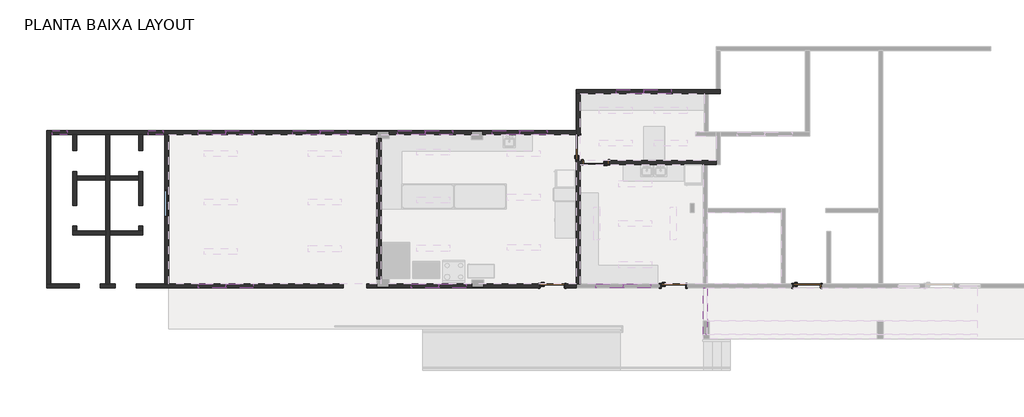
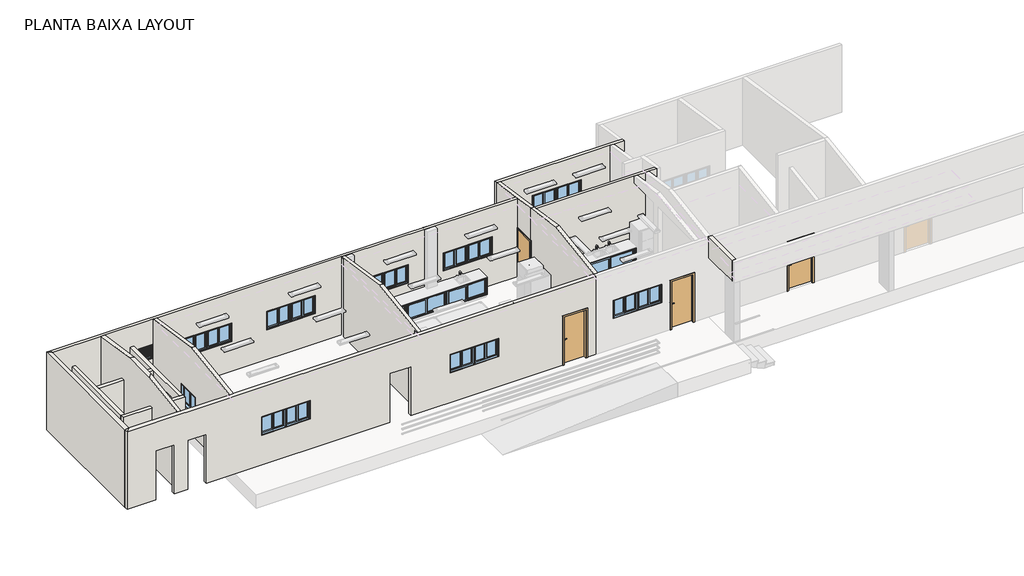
# One storey, part 1 of 6: 29 windows, 24 walls, 5 doors.
"""IFC4 building model written with IfcOpenShell, lengths in millimetres."""

from ifc_helpers import new_model, si_unit, frame, origin, origin_with_axes, place, context, project, spatial, polyline, outline, extrude, faceted_brep, transform, mapped, element, save
from components import door_11dd9e2f, door_7d303a18, window_d0bb16d3, window_8d8c32c6, window_31080834, window_e4890519, window_c5818056, window_2c990719, window_158f51de, window_a2c0ad5d

model = new_model("IFC4")

# Units and contexts
model_context = context("Model", 3, world=origin())
ifc_project = project(units=[si_unit("LENGTHUNIT", "METRE", prefix="MILLI")], contexts=[model_context])

# Site, building, storey
site = spatial("IfcSite", under=ifc_project)
building = spatial("IfcBuilding", under=site)
storey = spatial("IfcBuildingStorey", under=building, Name="PLANTA BAIXA LAYOUT", Elevation=0.0)

# Doors
placement = place(None, origin())
door_shape = door_11dd9e2f(model_context)
element("IfcDoor", 1, ObjectType="Porta acessivel 90cm-FLA : 100x210 (acessível s/ barra)", at=placement, inside=storey, context=model_context, shape_type="MappedRepresentation", body=[
    mapped(door_shape, transform((5020.1165906, -8042.0637549, 0.0), x_axis=(1.0, 0.0, 0.0), y_axis=(0.0, 1.0, 0.0), z_axis=(0.0, 0.0, 1.0))),
])
door_2_shape = door_7d303a18(model_context)
element("IfcDoor", 2, ObjectType="Porta acessivel 90cm-FLA : 90x210 (acessível s/ barra)", at=placement, inside=storey, context=model_context, shape_type="MappedRepresentation", body=[
    mapped(door_2_shape, transform((160.1165906, -8042.0637549, 0.0), x_axis=(1.0, 0.0, 0.0), y_axis=(0.0, 1.0, 0.0), z_axis=(0.0, 0.0, 1.0))),
])
element("IfcDoor", 3, ObjectType="Porta acessivel 90cm-FLA : 90x210 (acessível s/ barra)", at=placement, inside=storey, context=model_context, shape_type="MappedRepresentation", body=[
    mapped(door_2_shape, transform((-2679.8834094, -3542.0637549, 0.0), x_axis=(-1.0, 0.0, 0.0), y_axis=(0.0, -1.0, 0.0), z_axis=(0.0, 0.0, 1.0))),
])
element("IfcDoor", 4, ObjectType="Porta acessivel 90cm-FLA : 90x210 (acessível s/ barra)", at=placement, inside=storey, context=model_context, shape_type="MappedRepresentation", body=[
    mapped(door_2_shape, transform((-3317.3834094, -2994.5637549, 0.0), x_axis=(0.0, 1.0, 0.0), y_axis=(-1.0, 0.0, 0.0), z_axis=(0.0, 0.0, 1.0))),
])
element("IfcDoor", 5, ObjectType="Porta acessivel 90cm-FLA : 90x210 (acessível s/ barra)", at=placement, inside=storey, context=model_context, shape_type="MappedRepresentation", body=[
    mapped(door_2_shape, transform((-4254.8834094, -8042.0637549, 0.0), x_axis=(1.0, 0.0, 0.0), y_axis=(0.0, 1.0, 0.0), z_axis=(0.0, 0.0, 1.0))),
])

# Walls
element("IfcWall", 6, ObjectType="12cm Int. Pintura", at=placement, inside=storey, context=model_context, shape_type="SweptSolid", body=[
    extrude(outline(polyline([(-5112.3834094, -3077.0637549), (-5112.3834094, -2537.0637549), (-4992.3834094, -2537.0637549), (-4992.3834094, -3077.0637549), (-5112.3834094, -3077.0637549)])), frame((0.0, 0.0, 150.0), z_axis=(0.0, 0.0, 1.0), x_axis=(1.0, 0.0, 0.0)), (0.0, 0.0, 1.0), 730.0),
])
element("IfcWall", 7, ObjectType="12cm Int. Pintura", at=placement, inside=storey, context=model_context, shape_type="SweptSolid", body=[
    extrude(outline(polyline([(-9922.3834094, -5237.0637549), (-10492.3834094, -5237.0637549), (-10492.3834094, -5117.0637549), (-9922.3834094, -5117.0637549), (-9922.3834094, -5237.0637549)])), origin_with_axes(), (0.0, 0.0, 1.0), 880.0),
])
element("IfcWall", 8, ObjectType="12cm Int. Pintura", at=placement, inside=storey, context=model_context, shape_type="SweptSolid", body=[
    extrude(outline(polyline([(-9802.3834094, -3537.0637549), (-10492.3834094, -3537.0637549), (-10492.3834094, -3417.0637549), (-9802.3834094, -3417.0637549), (-9802.3834094, -3537.0637549)])), frame((0.0, 0.0, 150.0), z_axis=(0.0, 0.0, 1.0), x_axis=(1.0, 0.0, 0.0)), (0.0, 0.0, 1.0), 730.0),
])
element("IfcWall", 9, ObjectType="12cm Int. Pintura", at=placement, inside=storey, context=model_context, shape_type="Brep", body=[
    faceted_brep([(-6732.3834094, -2537.0637549, 150.0), (-6732.3834094, -3077.0637549, 150.0), (-6732.3834094, -3077.0637549, 880.0), (-6732.3834094, -2537.0637549, 880.0), (-6612.3834094, -2537.0637549, 150.0), (-6612.3834094, -2537.0637549, 880.0), (-6612.3834094, -3077.0637549, 880.0), (-6612.3834094, -3077.0637549, 150.0), (-6652.3834094, -3077.0637549, 150.0), (-6652.3834094, -3077.0637549, 880.0)], [[[0, 1, 2, 3]], [[4, 5, 6, 7]], [[1, 0, 4, 7, 8]], [[3, 2, 9, 6, 5]], [[0, 3, 5, 4]], [[2, 1, 8, 7, 6, 9]]]),
])
element("IfcWall", 10, ObjectType="12cm Int. Pintura", at=placement, inside=storey, context=model_context, shape_type="SweptSolid", body=[
    extrude(outline(polyline([(-8372.3834094, -3077.0637549), (-8372.3834094, -2537.0637549), (-8252.3834094, -2537.0637549), (-8252.3834094, -3077.0637549), (-8372.3834094, -3077.0637549)])), frame((0.0, 0.0, 150.0), z_axis=(0.0, 0.0, 1.0), x_axis=(1.0, 0.0, 0.0)), (0.0, 0.0, 1.0), 730.0),
])
element("IfcWall", 11, ObjectType="15cm- Reboco (ambos)", at=placement, inside=storey, context=model_context, shape_type="Brep", body=[
    faceted_brep([(-3242.3834094, -7967.0637549, -25.8188108), (-3242.3834094, -3467.0637549, -25.8188108), (-3242.3834094, -3467.0637549, 0.0), (-3242.3834094, -3472.0637549, 0.0), (-3242.3834094, -3472.0637549, 2120.0), (-3242.3834094, -3467.0637549, 2120.0), (-3242.3834094, -3467.0637549, 3539.5), (-3242.3834094, -3617.0637549, 3562.0), (-3242.3834094, -5252.0637549, 3807.25), (-3242.3834094, -7967.0637549, 3400.0), (-3392.3834094, -3467.0637549, -25.8188108), (-3392.3834094, -7967.0637549, -25.8188108), (-3392.3834094, -7967.0637549, 0.0), (-3392.3834094, -7967.0637549, 3400.0), (-3392.3834094, -5252.0637549, 3807.25), (-3392.3834094, -3467.0637549, 3539.5), (-3392.3834094, -3467.0637549, 2120.0), (-3392.3834094, -3472.0637549, 2120.0), (-3392.3834094, -3472.0637549, 0.0), (-3392.3834094, -3467.0637549, 0.0)], [[[0, 1, 2, 3, 4, 5, 6, 7, 8, 9]], [[10, 11, 12, 13, 14, 15, 16, 17, 18, 19]], [[1, 0, 11, 10]], [[0, 9, 13, 12, 11]], [[1, 10, 19, 2]], [[15, 6, 5, 16]], [[13, 9, 8, 14]], [[6, 15, 14, 8, 7]], [[18, 3, 2, 19]], [[3, 18, 17, 4]], [[4, 17, 16, 5]]]),
])
element("IfcWall", 12, ObjectType="15cm- Reboco (ambos)", at=placement, inside=storey, context=model_context, shape_type="Brep", body=[
    faceted_brep([(-3242.3834094, -3617.0637549, 3562.0), (-3242.3834094, -3617.0637549, 0.0), (-3142.3834094, -3617.0637549, 0.0), (-3142.3834094, -3617.0637549, 2120.0), (-2202.3834094, -3617.0637549, 2120.0), (-2202.3834094, -3617.0637549, 0.0), (1232.6165906, -3617.0637549, 0.0), (1382.6165906, -3617.0637549, 0.0), (1707.6165906, -3617.0637549, 0.0), (1707.6165906, -3617.0637549, 3562.0), (1382.6165906, -3617.0637549, 3562.0), (1232.6165906, -3617.0637549, 3562.0), (912.6165906, -3617.0637549, 3562.0), (762.6165906, -3617.0637549, 3562.0), (-3242.3834094, -3467.0637549, 0.0), (-3242.3834094, -3467.0637549, 2120.0), (-3242.3834094, -3467.0637549, 3539.5), (1707.6165906, -3467.0637549, 3539.5), (1707.6165906, -3467.0637549, 0.0), (-2202.3834094, -3467.0637549, 0.0), (-2202.3834094, -3467.0637549, 2120.0), (-3142.3834094, -3467.0637549, 2120.0), (-3142.3834094, -3467.0637549, 0.0)], [[[0, 1, 2, 3, 4, 5, 6, 7, 8, 9, 10, 11, 12, 13]], [[14, 15, 16, 17, 18, 19, 20, 21, 22]], [[1, 14, 22, 2]], [[18, 8, 7, 6, 5, 19]], [[1, 0, 16, 15, 14]], [[21, 3, 2, 22]], [[9, 8, 18, 17]], [[0, 13, 12, 11, 10, 9, 17, 16]], [[4, 20, 19, 5]], [[3, 21, 20, 4]]]),
])
element("IfcWall", 13, ObjectType="15cm- Reboco (ambos)", at=placement, inside=storey, context=model_context, shape_type="Brep", body=[
    faceted_brep([(1857.6165906, -892.0637549, 0.0), (1707.6165906, -892.0637549, 0.0), (-3392.3834094, -892.0637549, 0.0), (-3392.3834094, -892.0637549, 3153.25), (1707.6165906, -892.0637549, 3153.25), (1857.6165906, -892.0637549, 3153.25), (77.6165906, -892.0637549, 2100.0), (-1922.3834094, -892.0637549, 2100.0), (-1922.3834094, -892.0637549, 1300.0), (77.6165906, -892.0637549, 1300.0), (-3392.3834094, -1042.0637549, 0.0), (-3242.3834094, -1042.0637549, 0.0), (1277.6165906, -1042.0637549, 0.0), (1427.6165906, -1042.0637549, 0.0), (1857.6165906, -1042.0637549, 0.0), (1857.6165906, -1042.0637549, 3175.75), (1427.6165906, -1042.0637549, 3175.75), (1277.6165906, -1042.0637549, 3175.75), (-3242.3834094, -1042.0637549, 3175.75), (-3392.3834094, -1042.0637549, 3175.75), (77.6165906, -1042.0637549, 1300.0), (-1922.3834094, -1042.0637549, 1300.0), (-1922.3834094, -1042.0637549, 2100.0), (77.6165906, -1042.0637549, 2100.0)], [[[0, 1, 2, 3, 4, 5], [6, 7, 8, 9]], [[10, 11, 12, 13, 14, 15, 16, 17, 18, 19], [20, 21, 22, 23]], [[2, 1, 0, 14, 13, 12, 11, 10]], [[3, 2, 10, 19]], [[9, 20, 23, 6]], [[8, 7, 22, 21]], [[6, 23, 22, 7]], [[8, 21, 20, 9]], [[0, 5, 15, 14]], [[5, 4, 3, 19, 18, 17, 16, 15]]]),
])
element("IfcWall", 14, ObjectType="15cm- Reboco (ambos)", at=placement, inside=storey, context=model_context, shape_type="Brep", body=[
    faceted_brep([(-3392.3834094, -1042.0637549, 3175.75), (-3392.3834094, -1042.0637549, 0.0), (-3392.3834094, -2387.0637549, 0.0), (-3392.3834094, -2532.0637549, 0.0), (-3392.3834094, -2532.0637549, 2120.0), (-3392.3834094, -3467.0637549, 2120.0), (-3392.3834094, -3467.0637549, 3539.5), (-3392.3834094, -2537.0637549, 3400.0), (-3392.3834094, -2387.0637549, 3377.5), (-3242.3834094, -1042.0637549, 0.0), (-3242.3834094, -1042.0637549, 3175.75), (-3242.3834094, -3467.0637549, 3539.5), (-3242.3834094, -3467.0637549, 2120.0), (-3242.3834094, -2532.0637549, 2120.0), (-3242.3834094, -2532.0637549, 0.0)], [[[0, 1, 2, 3, 4, 5, 6, 7, 8]], [[9, 10, 11, 12, 13, 14]], [[1, 9, 14, 3, 2]], [[1, 0, 10, 9]], [[11, 6, 5, 12]], [[13, 4, 3, 14]], [[0, 8, 7, 6, 11, 10]], [[4, 13, 12, 5]]]),
])
element("IfcWall", 15, ObjectType="15cm- Reboco (ambos)", at=placement, inside=storey, context=model_context, shape_type="Brep", body=[
    faceted_brep([(-3392.3834094, -2387.0637549, 0.0), (-22522.3834094, -2387.0637549, 0.0), (-22522.3834094, -2387.0637549, 3377.5), (-3392.3834094, -2387.0637549, 3377.5), (-4442.3834094, -2387.0637549, 1300.0), (-4442.3834094, -2387.0637549, 2100.0), (-6442.3834094, -2387.0637549, 2100.0), (-6442.3834094, -2387.0637549, 1300.0), (-7882.3834094, -2387.0637549, 1300.0), (-7882.3834094, -2387.0637549, 2100.0), (-9882.3834094, -2387.0637549, 2100.0), (-9882.3834094, -2387.0637549, 1300.0), (-15152.3834094, -2387.0637549, 1300.0), (-15152.3834094, -2387.0637549, 2100.0), (-17152.3834094, -2387.0637549, 2100.0), (-17152.3834094, -2387.0637549, 1300.0), (-21922.3834094, -2387.0637549, 1700.0), (-21922.3834094, -2387.0637549, 2300.0), (-22472.3834094, -2387.0637549, 2300.0), (-22472.3834094, -2387.0637549, 1700.0), (-18422.3834094, -2387.0637549, 1700.0), (-18422.3834094, -2387.0637549, 2300.0), (-18972.3834094, -2387.0637549, 2300.0), (-18972.3834094, -2387.0637549, 1700.0), (-13712.3834094, -2387.0637549, 2100.0), (-13712.3834094, -2387.0637549, 1300.0), (-11712.3834094, -2387.0637549, 1300.0), (-11712.3834094, -2387.0637549, 2100.0), (-3392.3834094, -2537.0637549, 0.0), (-3392.3834094, -2537.0637549, 3400.0), (-10492.3834094, -2537.0637549, 3400.0), (-10642.3834094, -2537.0637549, 3400.0), (-18222.3834094, -2537.0637549, 3400.0), (-18372.3834094, -2537.0637549, 3400.0), (-20372.3834094, -2537.0637549, 3400.0), (-20522.3834094, -2537.0637549, 3400.0), (-22522.3834094, -2537.0637549, 3400.0), (-22522.3834094, -2537.0637549, 0.0), (-21722.3834094, -2537.0637549, 0.0), (-21572.3834094, -2537.0637549, 0.0), (-20522.3834094, -2537.0637549, 0.0), (-20372.3834094, -2537.0637549, 0.0), (-19322.3834094, -2537.0637549, 0.0), (-19172.3834094, -2537.0637549, 0.0), (-18372.3834094, -2537.0637549, 0.0), (-18222.3834094, -2537.0637549, 0.0), (-10642.3834094, -2537.0637549, 0.0), (-10642.3834094, -2537.0637549, 3379.75), (-10492.3834094, -2537.0637549, 3379.75), (-10202.3834094, -2537.0637549, 3379.75), (-10202.3834094, -2537.0637549, 0.0), (-7212.3834094, -2537.0637549, 0.0), (-7212.3834094, -2537.0637549, 3379.75), (-6792.3834094, -2537.0637549, 3379.75), (-6792.3834094, -2537.0637549, 0.0), (-4442.3834094, -2537.0637549, 2100.0), (-4442.3834094, -2537.0637549, 1300.0), (-6442.3834094, -2537.0637549, 1300.0), (-6442.3834094, -2537.0637549, 2100.0), (-7882.3834094, -2537.0637549, 2100.0), (-7882.3834094, -2537.0637549, 1300.0), (-9882.3834094, -2537.0637549, 1300.0), (-9882.3834094, -2537.0637549, 2100.0), (-15152.3834094, -2537.0637549, 2100.0), (-15152.3834094, -2537.0637549, 1300.0), (-17152.3834094, -2537.0637549, 1300.0), (-17152.3834094, -2537.0637549, 2100.0), (-21922.3834094, -2537.0637549, 2300.0), (-21922.3834094, -2537.0637549, 1700.0), (-22472.3834094, -2537.0637549, 1700.0), (-22472.3834094, -2537.0637549, 2300.0), (-18422.3834094, -2537.0637549, 2300.0), (-18422.3834094, -2537.0637549, 1700.0), (-18972.3834094, -2537.0637549, 1700.0), (-18972.3834094, -2537.0637549, 2300.0), (-13712.3834094, -2537.0637549, 1300.0), (-13712.3834094, -2537.0637549, 2100.0), (-11712.3834094, -2537.0637549, 2100.0), (-11712.3834094, -2537.0637549, 1300.0), (-6792.3834094, -2402.0637549, 0.0), (-7212.3834094, -2402.0637549, 0.0), (-10202.3834094, -2402.0637549, 0.0), (-10642.3834094, -2402.0637549, 0.0), (-7212.3834094, -2402.0637549, 3379.75), (-6792.3834094, -2402.0637549, 3379.75), (-10642.3834094, -2402.0637549, 3379.75), (-10202.3834094, -2402.0637549, 3379.75)], [[[0, 1, 2, 3], [4, 5, 6, 7], [8, 9, 10, 11], [12, 13, 14, 15], [16, 17, 18, 19], [20, 21, 22, 23], [24, 25, 26, 27]], [[28, 29, 30, 31, 32, 33, 34, 35, 36, 37, 38, 39, 40, 41, 42, 43, 44, 45, 46, 47, 48, 49, 50, 51, 52, 53, 54], [55, 56, 57, 58], [59, 60, 61, 62], [63, 64, 65, 66], [67, 68, 69, 70], [71, 72, 73, 74], [75, 76, 77, 78]], [[1, 0, 28, 54, 79, 80, 51, 50, 81, 82, 46, 45, 44, 43, 42, 41, 40, 39, 38, 37]], [[0, 3, 29, 28]], [[5, 55, 58, 6]], [[56, 55, 5, 4]], [[56, 4, 7, 57]], [[7, 6, 58, 57]], [[9, 59, 62, 10]], [[60, 59, 9, 8]], [[60, 8, 11, 61]], [[11, 10, 62, 61]], [[2, 1, 37, 36]], [[83, 84, 53, 52]], [[84, 79, 54, 53]], [[84, 83, 80, 79]], [[80, 83, 52, 51]], [[85, 86, 49, 48, 47]], [[86, 81, 50, 49]], [[86, 85, 82, 81]], [[82, 85, 47, 46]], [[66, 14, 13, 63]], [[13, 12, 64, 63]], [[15, 65, 64, 12]], [[68, 67, 17, 16]], [[69, 68, 16, 19]], [[70, 69, 19, 18]], [[67, 70, 18, 17]], [[72, 71, 21, 20]], [[73, 72, 20, 23]], [[74, 73, 23, 22]], [[71, 74, 22, 21]], [[76, 24, 27, 77]], [[25, 24, 76, 75]], [[25, 75, 78, 26]], [[27, 26, 78, 77]], [[15, 14, 66, 65]], [[3, 2, 36, 35, 34, 33, 32, 31, 30, 29]]]),
])
element("IfcWall", 16, ObjectType="15cm- Reboco (ambos)", at=placement, inside=storey, context=model_context, shape_type="Brep", body=[
    faceted_brep([(-10642.3834094, -7967.0637549, 3400.0), (-10642.3834094, -5252.0637549, 3807.25), (-10642.3834094, -2537.0637549, 3400.0), (-10642.3834094, -2537.0637549, 3379.75), (-10642.3834094, -2682.0637549, 3379.75), (-10642.3834094, -2682.0637549, 0.0), (-10642.3834094, -7782.0637549, 0.0), (-10642.3834094, -7782.0637549, 3379.75), (-10642.3834094, -7967.0637549, 3379.75), (-10492.3834094, -2537.0637549, 3400.0), (-10492.3834094, -5252.0637549, 3807.25), (-10492.3834094, -7967.0637549, 3400.0), (-10492.3834094, -7967.0637549, 3379.75), (-10492.3834094, -7782.0637549, 3379.75), (-10492.3834094, -7782.0637549, 0.0), (-10492.3834094, -5237.0637549, 0.0), (-10492.3834094, -5117.0637549, 0.0), (-10492.3834094, -2682.0637549, 0.0), (-10492.3834094, -2682.0637549, 3379.75), (-10492.3834094, -2537.0637549, 3379.75)], [[[0, 1, 2, 3, 4, 5, 6, 7, 8]], [[9, 10, 11, 12, 13, 14, 15, 16, 17, 18, 19]], [[5, 17, 16, 15, 14, 6]], [[11, 0, 8, 12]], [[2, 9, 19, 3]], [[9, 2, 1, 10]], [[0, 11, 10, 1]], [[18, 4, 3, 19]], [[4, 18, 17, 5]], [[7, 13, 12, 8]], [[13, 7, 6, 14]]]),
])
element("IfcWall", 17, ObjectType="15cm- Reboco (ambos)", at=placement, inside=storey, context=model_context, shape_type="Brep", body=[
    faceted_brep([(-3392.3834094, -8117.0637549, 0.0), (-3392.3834094, -8117.0637549, 3377.5), (-22672.3834094, -8117.0637549, 3377.5), (-22672.3834094, -8117.0637549, 0.0), (-21482.3834094, -8117.0637549, 0.0), (-21482.3834094, -8117.0637549, 2130.0), (-20722.3834094, -8117.0637549, 2130.0), (-20722.3834094, -8117.0637549, 0.0), (-20172.3834094, -8117.0637549, 0.0), (-20172.3834094, -8117.0637549, 2130.0), (-19412.3834094, -8117.0637549, 2130.0), (-19412.3834094, -8117.0637549, 0.0), (-11872.3834094, -8117.0637549, 0.0), (-11872.3834094, -8117.0637549, 2130.0), (-11012.3834094, -8117.0637549, 2130.0), (-11012.3834094, -8117.0637549, 0.0), (-4732.3834094, -8117.0637549, 0.0), (-4732.3834094, -8117.0637549, 2120.0), (-3792.3834094, -8117.0637549, 2120.0), (-3792.3834094, -8117.0637549, 0.0), (-7392.3834094, -8117.0637549, 2100.0), (-7392.3834094, -8117.0637549, 1300.0), (-9392.3834094, -8117.0637549, 1300.0), (-9392.3834094, -8117.0637549, 2100.0), (-15142.3834094, -8117.0637549, 2100.0), (-15142.3834094, -8117.0637549, 1300.0), (-17142.3834094, -8117.0637549, 1300.0), (-17142.3834094, -8117.0637549, 2100.0), (-3392.3834094, -7967.0637549, 3400.0), (-3392.3834094, -7967.0637549, 0.0), (-3792.3834094, -7967.0637549, 0.0), (-3792.3834094, -7967.0637549, 2120.0), (-4732.3834094, -7967.0637549, 2120.0), (-4732.3834094, -7967.0637549, 0.0), (-6752.3834094, -7967.0637549, 0.0), (-6752.3834094, -7967.0637549, 3379.75), (-7192.3834094, -7967.0637549, 3379.75), (-7192.3834094, -7967.0637549, 0.0), (-10202.3834094, -7967.0637549, 0.0), (-10202.3834094, -7967.0637549, 3379.75), (-10492.3834094, -7967.0637549, 3379.75), (-10642.3834094, -7967.0637549, 3379.75), (-10642.3834094, -7967.0637549, 0.0), (-11012.3834094, -7967.0637549, 0.0), (-11012.3834094, -7967.0637549, 2130.0), (-11872.3834094, -7967.0637549, 2130.0), (-11872.3834094, -7967.0637549, 0.0), (-18222.3834094, -7967.0637549, 0.0), (-18372.3834094, -7967.0637549, 0.0), (-19412.3834094, -7967.0637549, 0.0), (-19412.3834094, -7967.0637549, 2130.0), (-20172.3834094, -7967.0637549, 2130.0), (-20172.3834094, -7967.0637549, 0.0), (-20372.3834094, -7967.0637549, 0.0), (-20522.3834094, -7967.0637549, 0.0), (-20722.3834094, -7967.0637549, 0.0), (-20722.3834094, -7967.0637549, 2130.0), (-21482.3834094, -7967.0637549, 2130.0), (-21482.3834094, -7967.0637549, 0.0), (-22522.3834094, -7967.0637549, 0.0), (-22672.3834094, -7967.0637549, 0.0), (-22672.3834094, -7967.0637549, 3377.5), (-22522.3834094, -7967.0637549, 3400.0), (-20522.3834094, -7967.0637549, 3400.0), (-20372.3834094, -7967.0637549, 3400.0), (-18372.3834094, -7967.0637549, 3400.0), (-18222.3834094, -7967.0637549, 3400.0), (-10642.3834094, -7967.0637549, 3400.0), (-10492.3834094, -7967.0637549, 3400.0), (-7392.3834094, -7967.0637549, 1300.0), (-7392.3834094, -7967.0637549, 2100.0), (-9392.3834094, -7967.0637549, 2100.0), (-9392.3834094, -7967.0637549, 1300.0), (-15142.3834094, -7967.0637549, 1300.0), (-15142.3834094, -7967.0637549, 2100.0), (-17142.3834094, -7967.0637549, 2100.0), (-17142.3834094, -7967.0637549, 1300.0), (-10642.3834094, -8102.0637549, 0.0), (-10202.3834094, -8102.0637549, 0.0), (-7192.3834094, -8102.0637549, 0.0), (-6752.3834094, -8102.0637549, 0.0), (-10202.3834094, -8102.0637549, 3379.75), (-10642.3834094, -8102.0637549, 3379.75), (-6752.3834094, -8102.0637549, 3379.75), (-7192.3834094, -8102.0637549, 3379.75)], [[[0, 1, 2, 3, 4, 5, 6, 7, 8, 9, 10, 11, 12, 13, 14, 15, 16, 17, 18, 19], [20, 21, 22, 23], [24, 25, 26, 27]], [[28, 29, 30, 31, 32, 33, 34, 35, 36, 37, 38, 39, 40, 41, 42, 43, 44, 45, 46, 47, 48, 49, 50, 51, 52, 53, 54, 55, 56, 57, 58, 59, 60, 61, 62, 63, 64, 65, 66, 67, 68], [69, 70, 71, 72], [73, 74, 75, 76]], [[29, 0, 19, 30]], [[16, 15, 43, 42, 77, 78, 38, 37, 79, 80, 34, 33]], [[46, 12, 11, 49, 48, 47]], [[52, 8, 7, 55, 54, 53]], [[4, 3, 60, 59, 58]], [[1, 0, 29, 28]], [[19, 18, 31, 30]], [[70, 20, 23, 71]], [[21, 20, 70, 69]], [[21, 69, 72, 22]], [[23, 22, 72, 71]], [[14, 44, 43, 15]], [[44, 14, 13, 45]], [[45, 13, 12, 46]], [[27, 75, 74, 24]], [[25, 24, 74, 73]], [[76, 26, 25, 73]], [[27, 26, 76, 75]], [[51, 9, 8, 52]], [[9, 51, 50, 10]], [[10, 50, 49, 11]], [[6, 56, 55, 7]], [[56, 6, 5, 57]], [[57, 5, 4, 58]], [[3, 2, 61, 60]], [[81, 82, 41, 40, 39]], [[78, 81, 39, 38]], [[82, 77, 42, 41]], [[82, 81, 78, 77]], [[83, 84, 36, 35]], [[80, 83, 35, 34]], [[84, 79, 37, 36]], [[84, 83, 80, 79]], [[2, 1, 28, 68, 67, 66, 65, 64, 63, 62]], [[61, 2, 62]], [[32, 17, 16, 33]], [[31, 18, 17, 32]]]),
])
element("IfcWall", 18, ObjectType="15cm- Reboco (ambos)", at=placement, inside=storey, context=model_context, shape_type="SweptSolid", body=[
    extrude(outline(polyline([(-7967.0637549, 0.0), (-7967.0637549, 3400.0), (-5252.0637549, 3807.25), (-2537.0637549, 3400.0), (-2537.0637549, 0.0), (-7967.0637549, 0.0)]), holes=[polyline([(-5537.0637549, 1000.0), (-4537.0637549, 1000.0), (-4537.0637549, 1800.0), (-5537.0637549, 1800.0), (-5537.0637549, 1000.0)])]), frame((-18372.3834094, 0.0, 0.0), z_axis=(1.0, 0.0, 0.0), x_axis=(0.0, 1.0, 0.0)), (0.0, 0.0, 1.0), 150.0),
])
element("IfcWall", 19, ObjectType="15cm- Reboco (ambos)", at=placement, inside=storey, context=model_context, shape_type="Brep", body=[
    faceted_brep([(-20372.3834094, -7967.0637549, 0.0), (-20372.3834094, -6187.0637549, 0.0), (-20372.3834094, -6037.0637549, 0.0), (-20372.3834094, -4187.0637549, 0.0), (-20372.3834094, -4037.0637549, 0.0), (-20372.3834094, -2537.0637549, 0.0), (-20372.3834094, -2537.0637549, 3400.0), (-20372.3834094, -4687.0637549, 3722.5), (-20372.3834094, -5817.0637549, 3722.5), (-20372.3834094, -7967.0637549, 3400.0), (-20522.3834094, -7967.0637549, 0.0), (-20522.3834094, -7967.0637549, 3400.0), (-20522.3834094, -5967.0637549, 3700.0), (-20522.3834094, -4537.0637549, 3700.0), (-20522.3834094, -2537.0637549, 3400.0), (-20522.3834094, -2537.0637549, 0.0), (-20522.3834094, -4037.0637549, 0.0), (-20522.3834094, -4187.0637549, 0.0), (-20522.3834094, -6037.0637549, 0.0), (-20522.3834094, -6187.0637549, 0.0)], [[[0, 1, 2, 3, 4, 5, 6, 7, 8, 9]], [[10, 11, 12, 13, 14, 15, 16, 17, 18, 19]], [[5, 4, 3, 2, 1, 0, 10, 19, 18, 17, 16, 15]], [[6, 5, 15, 14]], [[0, 9, 11, 10]], [[9, 8, 12, 11]], [[8, 7, 13, 12]], [[7, 6, 14, 13]]]),
])
element("IfcWall", 20, ObjectType="15cm- Reboco (ambos)", at=placement, inside=storey, context=model_context, shape_type="Brep", body=[
    faceted_brep([(-22522.3834094, -7967.0637549, 0.0), (-22522.3834094, -2537.0637549, 0.0), (-22522.3834094, -2387.0637549, 0.0), (-22522.3834094, -2387.0637549, 3377.5), (-22522.3834094, -2537.0637549, 3400.0), (-22522.3834094, -7967.0637549, 3400.0), (-22672.3834094, -7967.0637549, 0.0), (-22672.3834094, -7967.0637549, 3377.5), (-22672.3834094, -2387.0637549, 3377.5), (-22672.3834094, -2387.0637549, 0.0)], [[[0, 1, 2, 3, 4, 5]], [[6, 7, 8, 9]], [[2, 1, 0, 6, 9]], [[0, 5, 7, 6]], [[3, 2, 9, 8]], [[5, 4, 8, 7]], [[4, 3, 8]]]),
])
element("IfcWall", 21, ObjectType="15cm- Reboco (ambos)", at=placement, inside=storey, context=model_context, shape_type="Brep", body=[
    faceted_brep([(-20372.3834094, -6187.0637549, 0.0), (-19172.3834094, -6187.0637549, 0.0), (-19172.3834094, -6187.0637549, 2500.0), (-20372.3834094, -6187.0637549, 2500.0), (-20372.3834094, -6037.0637549, 0.0), (-20372.3834094, -6037.0637549, 2500.0), (-19322.3834094, -6037.0637549, 2500.0), (-19172.3834094, -6037.0637549, 2500.0), (-19172.3834094, -6037.0637549, 0.0), (-19322.3834094, -6037.0637549, 0.0)], [[[0, 1, 2, 3]], [[4, 5, 6, 7, 8, 9]], [[1, 0, 4, 9, 8]], [[3, 2, 7, 6, 5]], [[0, 3, 5, 4]], [[2, 1, 8, 7]]]),
])
element("IfcWall", 22, ObjectType="15cm- Reboco (ambos)", at=placement, inside=storey, context=model_context, shape_type="Brep", body=[
    faceted_brep([(-19172.3834094, -2537.0637549, 2500.0), (-19172.3834094, -6037.0637549, 2500.0), (-19172.3834094, -6037.0637549, 0.0), (-19172.3834094, -5867.0637549, 0.0), (-19172.3834094, -5867.0637549, 2130.0), (-19172.3834094, -5107.0637549, 2130.0), (-19172.3834094, -5107.0637549, 0.0), (-19172.3834094, -3867.0637549, 0.0), (-19172.3834094, -3867.0637549, 2130.0), (-19172.3834094, -3107.0637549, 2130.0), (-19172.3834094, -3107.0637549, 0.0), (-19172.3834094, -2537.0637549, 0.0), (-19322.3834094, -6037.0637549, 2500.0), (-19322.3834094, -4187.0637549, 2500.0), (-19322.3834094, -4037.0637549, 2500.0), (-19322.3834094, -2537.0637549, 2500.0), (-19322.3834094, -2537.0637549, 0.0), (-19322.3834094, -3107.0637549, 0.0), (-19322.3834094, -3107.0637549, 2130.0), (-19322.3834094, -3867.0637549, 2130.0), (-19322.3834094, -3867.0637549, 0.0), (-19322.3834094, -4037.0637549, 0.0), (-19322.3834094, -4187.0637549, 0.0), (-19322.3834094, -5107.0637549, 0.0), (-19322.3834094, -5107.0637549, 2130.0), (-19322.3834094, -5867.0637549, 2130.0), (-19322.3834094, -5867.0637549, 0.0), (-19322.3834094, -6037.0637549, 0.0)], [[[0, 1, 2, 3, 4, 5, 6, 7, 8, 9, 10, 11]], [[12, 13, 14, 15, 16, 17, 18, 19, 20, 21, 22, 23, 24, 25, 26, 27]], [[2, 27, 26, 3]], [[16, 11, 10, 17]], [[20, 7, 6, 23, 22, 21]], [[1, 0, 15, 14, 13, 12]], [[2, 1, 12, 27]], [[0, 11, 16, 15]], [[19, 8, 7, 20]], [[8, 19, 18, 9]], [[9, 18, 17, 10]], [[25, 4, 3, 26]], [[4, 25, 24, 5]], [[5, 24, 23, 6]]]),
])
element("IfcWall", 23, ObjectType="15cm- Reboco (ambos)", at=placement, inside=storey, context=model_context, shape_type="Brep", body=[
    faceted_brep([(-20522.3834094, -6037.0637549, 0.0), (-21572.3834094, -6037.0637549, 0.0), (-21722.3834094, -6037.0637549, 0.0), (-21722.3834094, -6037.0637549, 2500.0), (-21572.3834094, -6037.0637549, 2500.0), (-20522.3834094, -6037.0637549, 2500.0), (-20522.3834094, -6187.0637549, 0.0), (-20522.3834094, -6187.0637549, 2500.0), (-21722.3834094, -6187.0637549, 2500.0), (-21722.3834094, -6187.0637549, 0.0)], [[[0, 1, 2, 3, 4, 5]], [[6, 7, 8, 9]], [[2, 1, 0, 6, 9]], [[5, 4, 3, 8, 7]], [[3, 2, 9, 8]], [[0, 5, 7, 6]]]),
])
element("IfcWall", 24, ObjectType="15cm- Reboco (ambos)", at=placement, inside=storey, context=model_context, shape_type="Brep", body=[
    faceted_brep([(-21572.3834094, -2537.0637549, 2500.0), (-21572.3834094, -4037.0637549, 2500.0), (-21572.3834094, -4187.0637549, 2500.0), (-21572.3834094, -6037.0637549, 2500.0), (-21572.3834094, -6037.0637549, 0.0), (-21572.3834094, -5867.0637549, 0.0), (-21572.3834094, -5867.0637549, 2130.0), (-21572.3834094, -5107.0637549, 2130.0), (-21572.3834094, -5107.0637549, 0.0), (-21572.3834094, -4187.0637549, 0.0), (-21572.3834094, -4037.0637549, 0.0), (-21572.3834094, -3867.0637549, 0.0), (-21572.3834094, -3867.0637549, 2130.0), (-21572.3834094, -3107.0637549, 2130.0), (-21572.3834094, -3107.0637549, 0.0), (-21572.3834094, -2537.0637549, 0.0), (-21722.3834094, -6037.0637549, 2500.0), (-21722.3834094, -2537.0637549, 2500.0), (-21722.3834094, -2537.0637549, 0.0), (-21722.3834094, -3107.0637549, 0.0), (-21722.3834094, -3107.0637549, 2130.0), (-21722.3834094, -3867.0637549, 2130.0), (-21722.3834094, -3867.0637549, 0.0), (-21722.3834094, -5107.0637549, 0.0), (-21722.3834094, -5107.0637549, 2130.0), (-21722.3834094, -5867.0637549, 2130.0), (-21722.3834094, -5867.0637549, 0.0), (-21722.3834094, -6037.0637549, 0.0)], [[[0, 1, 2, 3, 4, 5, 6, 7, 8, 9, 10, 11, 12, 13, 14, 15]], [[16, 17, 18, 19, 20, 21, 22, 23, 24, 25, 26, 27]], [[4, 27, 26, 5]], [[18, 15, 14, 19]], [[8, 23, 22, 11, 10, 9]], [[3, 2, 1, 0, 17, 16]], [[4, 3, 16, 27]], [[0, 15, 18, 17]], [[25, 6, 5, 26]], [[6, 25, 24, 7]], [[7, 24, 23, 8]], [[21, 12, 11, 22]], [[12, 21, 20, 13]], [[13, 20, 19, 14]]]),
])
element("IfcWall", 25, ObjectType="15cm- Reboco (ambos)", at=placement, inside=storey, context=model_context, shape_type="SweptSolid", body=[
    extrude(outline(polyline([(-20522.3834094, -4187.0637549), (-21572.3834094, -4187.0637549), (-21572.3834094, -4037.0637549), (-20522.3834094, -4037.0637549), (-20522.3834094, -4187.0637549)])), origin_with_axes(), (0.0, 0.0, 1.0), 2500.0),
])
element("IfcWall", 26, ObjectType="15cm- Reboco (ambos)", at=placement, inside=storey, context=model_context, shape_type="SweptSolid", body=[
    extrude(outline(polyline([(-20372.3834094, -4037.0637549), (-19322.3834094, -4037.0637549), (-19322.3834094, -4187.0637549), (-20372.3834094, -4187.0637549), (-20372.3834094, -4037.0637549)])), origin_with_axes(), (0.0, 0.0, 1.0), 2500.0),
])
element("IfcWall", 27, ObjectType="15cm- Reboco (ambos)", at=placement, inside=storey, context=model_context, shape_type="SweptSolid", body=[
    extrude(outline(polyline([(1382.6165906, -8117.0637549), (1382.6165906, -9817.0637549), (1232.6165906, -9817.0637549), (1232.6165906, -8117.0637549), (1382.6165906, -8117.0637549)])), frame((0.0, 0.0, 2600.0), z_axis=(0.0, 0.0, 1.0), x_axis=(1.0, 0.0, 0.0)), (0.0, 0.0, 1.0), 900.0),
])
element("IfcWall", 28, ObjectType="6cm Gesso", at=placement, inside=storey, context=model_context, shape_type="SweptSolid", body=[
    extrude(outline(polyline([(1277.6165906, -1582.0637549), (1277.6165906, -1642.0637549), (1267.6165906, -1642.0637549), (1267.6165906, -1582.0637549), (1277.6165906, -1582.0637549)])), frame((0.0, 0.0, 170.0), z_axis=(0.0, 0.0, 1.0), x_axis=(1.0, 0.0, 0.0)), (0.0, 0.0, 1.0), 730.0),
    extrude(outline(polyline([(-3242.3834094, -1642.0637549), (-3242.3834094, -1582.0637549), (-3232.3834094, -1582.0637549), (-3232.3834094, -1642.0637549), (-3242.3834094, -1642.0637549)])), frame((0.0, 0.0, 170.0), z_axis=(0.0, 0.0, 1.0), x_axis=(1.0, 0.0, 0.0)), (0.0, 0.0, 1.0), 730.0),
])
element("IfcWall", 29, ObjectType="6cm Gesso", at=placement, inside=storey, context=model_context, shape_type="SweptSolid", body=[
    extrude(outline(polyline([(-2642.3834094, -7367.0637549), (-2642.3834094, -4667.0637549), (-2582.3834094, -4667.0637549), (-2582.3834094, -7367.0637549), (-2642.3834094, -7367.0637549)])), frame((0.0, 0.0, 150.0), z_axis=(0.0, 0.0, 1.0), x_axis=(1.0, 0.0, 0.0)), (0.0, 0.0, 1.0), 20.0),
])

# Windows
window_shape = window_d0bb16d3(model_context)
element("IfcWindow", 30, ObjectType="Janela Abrir Veneziana-2 folhas-FLA : 55x60 h=1.30", at=placement, inside=storey, context=model_context, shape_type="MappedRepresentation", body=[
    mapped(window_shape, transform((-22197.3834094, -2462.0637549, 700.0), x_axis=(-1.0, 0.0, 0.0), y_axis=(0.0, -1.0, 0.0), z_axis=(0.0, 0.0, 1.0))),
])
element("IfcWindow", 31, ObjectType="Janela Abrir Veneziana-2 folhas-FLA : 55x60 h=1.30", at=placement, inside=storey, context=model_context, shape_type="MappedRepresentation", body=[
    mapped(window_shape, transform((-18697.3834094, -2462.0637549, 700.0), x_axis=(-1.0, 0.0, 0.0), y_axis=(0.0, -1.0, 0.0), z_axis=(0.0, 0.0, 1.0))),
])
window_2_shape = window_8d8c32c6(model_context)
element("IfcWindow", 32, ObjectType="Janela Correr (bancada)- 2 folhas.GLE : 166X70 h=17 (Abrir 2 folhas)", at=placement, inside=storey, context=model_context, shape_type="MappedRepresentation", body=[
    mapped(window_2_shape, transform((-5822.3834094, -3107.0637549, -850.0), x_axis=(1.0, 0.0, 0.0), y_axis=(0.0, 1.0, 0.0), z_axis=(0.0, 0.0, 1.0))),
])
element("IfcWindow", 33, ObjectType="Janela Correr (bancada)- 2 folhas.GLE : 166X70 h=17 (Abrir 2 folhas)", at=placement, inside=storey, context=model_context, shape_type="MappedRepresentation", body=[
    mapped(window_2_shape, transform((-7482.3834094, -3107.0637549, -850.0), x_axis=(1.0, 0.0, 0.0), y_axis=(0.0, 1.0, 0.0), z_axis=(0.0, 0.0, 1.0))),
])
element("IfcWindow", 34, ObjectType="Janela Correr (bancada)- 2 folhas.GLE : 166X70 h=17 (Abrir 2 folhas)", at=placement, inside=storey, context=model_context, shape_type="MappedRepresentation", body=[
    mapped(window_2_shape, transform((-9142.3834094, -3107.0637549, -850.0), x_axis=(1.0, 0.0, 0.0), y_axis=(0.0, 1.0, 0.0), z_axis=(0.0, 0.0, 1.0))),
])
window_3_shape = window_31080834(model_context)
element("IfcWindow", 35, ObjectType="Janela Correr (bancada)- 2 folhas.GLE : 150X70 h=17 (Abrir 2 folhas)", at=placement, inside=storey, context=model_context, shape_type="MappedRepresentation", body=[
    mapped(window_3_shape, transform((-2482.3834094, -1612.0637549, -830.0), x_axis=(1.0, 0.0, 0.0), y_axis=(0.0, 1.0, 0.0), z_axis=(0.0, 0.0, 1.0))),
])
element("IfcWindow", 36, ObjectType="Janela Correr (bancada)- 2 folhas.GLE : 150X70 h=17 (Abrir 2 folhas)", at=placement, inside=storey, context=model_context, shape_type="MappedRepresentation", body=[
    mapped(window_3_shape, transform((-982.3834094, -1612.0637549, -830.0), x_axis=(-1.0, 0.0, 0.0), y_axis=(0.0, -1.0, 0.0), z_axis=(0.0, 0.0, 1.0))),
])
window_4_shape = window_e4890519(model_context)
element("IfcWindow", 37, ObjectType="Janela Correr (bancada)- 2 folhas.GLE : 216X70 h=17 (Abrir 2 folhas)", at=placement, inside=storey, context=model_context, shape_type="MappedRepresentation", body=[
    mapped(window_4_shape, transform((-567.3834094, -4187.0637549, -830.0), x_axis=(1.0, 0.0, 0.0), y_axis=(0.0, 1.0, 0.0), z_axis=(0.0, 0.0, 1.0))),
])
element("IfcWindow", 38, ObjectType="Janela Correr (bancada)- 2 folhas.GLE : 216X70 h=17 (Abrir 2 folhas)", at=placement, inside=storey, context=model_context, shape_type="MappedRepresentation", body=[
    mapped(window_4_shape, transform((-9772.3834094, -4157.0637549, -850.0), x_axis=(0.0, 1.0, 0.0), y_axis=(-1.0, 0.0, 0.0), z_axis=(0.0, 0.0, 1.0))),
])
window_5_shape = window_c5818056(model_context)
element("IfcWindow", 39, ObjectType="Janela Correr (bancada)- 2 folhas.GLE : 135X70 h=17 (Abrir 2 folhas)", at=placement, inside=storey, context=model_context, shape_type="MappedRepresentation", body=[
    mapped(window_5_shape, transform((-2612.3834094, -5342.0637549, -830.0), x_axis=(0.0, -1.0, 0.0), y_axis=(1.0, 0.0, 0.0), z_axis=(0.0, 0.0, 1.0))),
])
element("IfcWindow", 40, ObjectType="Janela Correr (bancada)- 2 folhas.GLE : 135X70 h=17 (Abrir 2 folhas)", at=placement, inside=storey, context=model_context, shape_type="MappedRepresentation", body=[
    mapped(window_5_shape, transform((-2612.3834094, -6692.0637549, -830.0), x_axis=(0.0, -1.0, 0.0), y_axis=(1.0, 0.0, 0.0), z_axis=(0.0, 0.0, 1.0))),
])
window_6_shape = window_2c990719(model_context)
element("IfcWindow", 41, ObjectType="Janela Abrir- 2 folhas-FLA.GLEOKrfa : 60x50 h=1.60", at=placement, inside=storey, context=model_context, shape_type="MappedRepresentation", body=[
    mapped(window_6_shape, transform((-2172.3834094, -8042.0637549, 300.0), x_axis=(-1.0, 0.0, 0.0), y_axis=(0.0, -1.0, 0.0), z_axis=(0.0, 0.0, 1.0))),
])
element("IfcWindow", 42, ObjectType="Janela Abrir- 2 folhas-FLA.GLEOKrfa : 60x50 h=1.60", at=placement, inside=storey, context=model_context, shape_type="MappedRepresentation", body=[
    mapped(window_6_shape, transform((-18297.3834094, -5037.0637549, 0.0), x_axis=(0.0, 1.0, 0.0), y_axis=(-1.0, 0.0, 0.0), z_axis=(0.0, 0.0, 1.0))),
])
window_7_shape = window_158f51de(model_context)
element("IfcWindow", 43, ObjectType="Janela Abrir- 2 folhas-FLA.GLEOKrfa : 60x50 h=1.60", at=placement, inside=storey, context=model_context, shape_type="MappedRepresentation", body=[
    mapped(window_7_shape, transform((-9382.3834094, -2462.0637549, 300.0), x_axis=(-1.0, 0.0, 0.0), y_axis=(0.0, -1.0, 0.0), z_axis=(0.0, 0.0, 1.0))),
])
element("IfcWindow", 44, ObjectType="Janela Abrir- 2 folhas-FLA.GLEOKrfa : 60x50 h=1.60", at=placement, inside=storey, context=model_context, shape_type="MappedRepresentation", body=[
    mapped(window_7_shape, transform((-7892.3834094, -8042.0637549, 300.0), x_axis=(1.0, 0.0, 0.0), y_axis=(0.0, 1.0, 0.0), z_axis=(0.0, 0.0, 1.0))),
])
element("IfcWindow", 45, ObjectType="Janela Abrir- 2 folhas-FLA.GLEOKrfa : 60x50 h=1.60", at=placement, inside=storey, context=model_context, shape_type="MappedRepresentation", body=[
    mapped(window_7_shape, transform((-8892.3834094, -8042.0637549, 300.0), x_axis=(1.0, 0.0, 0.0), y_axis=(0.0, 1.0, 0.0), z_axis=(0.0, 0.0, 1.0))),
])
element("IfcWindow", 46, ObjectType="Janela Abrir- 2 folhas-FLA.GLEOKrfa : 60x50 h=1.60", at=placement, inside=storey, context=model_context, shape_type="MappedRepresentation", body=[
    mapped(window_7_shape, transform((-422.3834094, -967.0637549, 300.0), x_axis=(-1.0, 0.0, 0.0), y_axis=(0.0, -1.0, 0.0), z_axis=(0.0, 0.0, 1.0))),
])
element("IfcWindow", 47, ObjectType="Janela Abrir- 2 folhas-FLA.GLEOKrfa : 60x50 h=1.60", at=placement, inside=storey, context=model_context, shape_type="MappedRepresentation", body=[
    mapped(window_7_shape, transform((-15642.3834094, -8042.0637549, 300.0), x_axis=(1.0, 0.0, 0.0), y_axis=(0.0, 1.0, 0.0), z_axis=(0.0, 0.0, 1.0))),
])
element("IfcWindow", 48, ObjectType="Janela Abrir- 2 folhas-FLA.GLEOKrfa : 60x50 h=1.60", at=placement, inside=storey, context=model_context, shape_type="MappedRepresentation", body=[
    mapped(window_7_shape, transform((-16642.3834094, -8042.0637549, 300.0), x_axis=(1.0, 0.0, 0.0), y_axis=(0.0, 1.0, 0.0), z_axis=(0.0, 0.0, 1.0))),
])
element("IfcWindow", 49, ObjectType="Janela Abrir- 2 folhas-FLA.GLEOKrfa : 60x50 h=1.60", at=placement, inside=storey, context=model_context, shape_type="MappedRepresentation", body=[
    mapped(window_7_shape, transform((-16652.3834094, -2462.0637549, 300.0), x_axis=(-1.0, 0.0, 0.0), y_axis=(0.0, -1.0, 0.0), z_axis=(0.0, 0.0, 1.0))),
])
element("IfcWindow", 50, ObjectType="Janela Abrir- 2 folhas-FLA.GLEOKrfa : 60x50 h=1.60", at=placement, inside=storey, context=model_context, shape_type="MappedRepresentation", body=[
    mapped(window_7_shape, transform((-13212.3834094, -2462.0637549, 300.0), x_axis=(-1.0, 0.0, 0.0), y_axis=(0.0, -1.0, 0.0), z_axis=(0.0, 0.0, 1.0))),
])
element("IfcWindow", 51, ObjectType="Janela Abrir- 2 folhas-FLA.GLEOKrfa : 60x50 h=1.60", at=placement, inside=storey, context=model_context, shape_type="MappedRepresentation", body=[
    mapped(window_6_shape, transform((-4942.3834094, -2462.0637549, 300.0), x_axis=(1.0, 0.0, 0.0), y_axis=(0.0, 1.0, 0.0), z_axis=(0.0, 0.0, 1.0))),
])
element("IfcWindow", 52, ObjectType="Janela Abrir- 2 folhas-FLA.GLEOKrfa : 60x50 h=1.60", at=placement, inside=storey, context=model_context, shape_type="MappedRepresentation", body=[
    mapped(window_6_shape, transform((-5942.3834094, -2462.0637549, 300.0), x_axis=(1.0, 0.0, 0.0), y_axis=(0.0, 1.0, 0.0), z_axis=(0.0, 0.0, 1.0))),
])
element("IfcWindow", 53, ObjectType="Janela Abrir- 2 folhas-FLA.GLEOKrfa : 60x50 h=1.60", at=placement, inside=storey, context=model_context, shape_type="MappedRepresentation", body=[
    mapped(window_6_shape, transform((-8382.3834094, -2462.0637549, 300.0), x_axis=(1.0, 0.0, 0.0), y_axis=(0.0, 1.0, 0.0), z_axis=(0.0, 0.0, 1.0))),
])
element("IfcWindow", 54, ObjectType="Janela Abrir- 2 folhas-FLA.GLEOKrfa : 60x50 h=1.60", at=placement, inside=storey, context=model_context, shape_type="MappedRepresentation", body=[
    mapped(window_6_shape, transform((-1422.3834094, -967.0637549, 300.0), x_axis=(1.0, 0.0, 0.0), y_axis=(0.0, 1.0, 0.0), z_axis=(0.0, 0.0, 1.0))),
])
element("IfcWindow", 55, ObjectType="Janela Abrir- 2 folhas-FLA.GLEOKrfa : 60x50 h=1.60", at=placement, inside=storey, context=model_context, shape_type="MappedRepresentation", body=[
    mapped(window_6_shape, transform((-15652.3834094, -2462.0637549, 300.0), x_axis=(1.0, 0.0, 0.0), y_axis=(0.0, 1.0, 0.0), z_axis=(0.0, 0.0, 1.0))),
])
element("IfcWindow", 56, ObjectType="Janela Abrir- 2 folhas-FLA.GLEOKrfa : 60x50 h=1.60", at=placement, inside=storey, context=model_context, shape_type="MappedRepresentation", body=[
    mapped(window_6_shape, transform((-12212.3834094, -2462.0637549, 300.0), x_axis=(1.0, 0.0, 0.0), y_axis=(0.0, 1.0, 0.0), z_axis=(0.0, 0.0, 1.0))),
])
element("IfcWindow", 57, ObjectType="Janela Abrir- 2 folhas-FLA.GLEOKrfa : 60x50 h=1.60", at=placement, inside=storey, context=model_context, shape_type="MappedRepresentation", body=[
    mapped(window_7_shape, transform((-1172.3834094, -8042.0637549, 300.0), x_axis=(1.0, 0.0, 0.0), y_axis=(0.0, 1.0, 0.0), z_axis=(0.0, 0.0, 1.0))),
])
window_8_shape = window_a2c0ad5d(model_context)
element("IfcWindow", 58, ObjectType="Janela Correr (bancada)- 2 folhas.GLE : 222X70 h=17 (Abrir 2 folhas) 2", at=placement, inside=storey, context=model_context, shape_type="MappedRepresentation", body=[
    mapped(window_8_shape, transform((-1527.3834094, -7337.0637549, -830.0), x_axis=(-1.0, 0.0, 0.0), y_axis=(0.0, -1.0, 0.0), z_axis=(0.0, 0.0, 1.0))),
])

save(model, "model.ifc")
